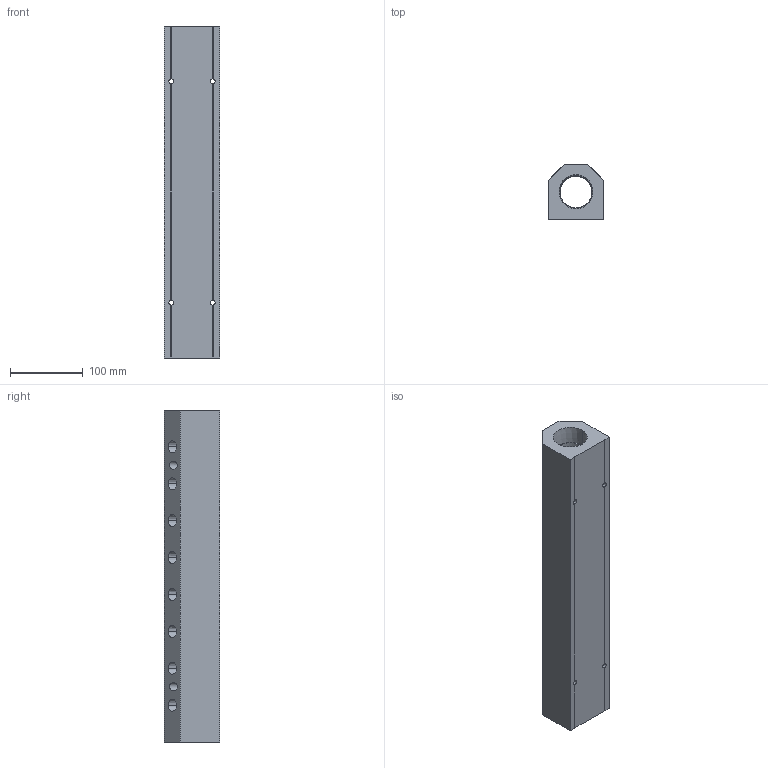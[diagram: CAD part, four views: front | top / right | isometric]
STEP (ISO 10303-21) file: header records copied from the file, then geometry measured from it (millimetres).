
FILE_DESCRIPTION (( 'STEP AP214' ), '1' );
FILE_NAME ('ALM8BCD-N6N24-457B.step', '2022-02-07T09:08:32', ( '' ), ( '' ), 'SwSTEP 2.0', 'SolidWorks 2020', '' );
FILE_SCHEMA (( 'AUTOMOTIVE_DESIGN' ));
Length unit declared in the file: millimetre
Products named in the file (1): ALM8BCD-N6N24-457B
Bounding box: 76.2 x 76.2 x 457 mm (x, y, z)
Volume: 1621996.7 mm3; surface area: 214505 mm2
Topology: 1 solids, 1 shells, 365 faces, 970 edges, 644 vertices
Faces by surface type: plane 219, bspline 76, cone 52, cylinder 18
Entity records: 21621 total; most frequent: CARTESIAN_POINT 9520, ORIENTED_EDGE 1940, DIRECTION 1418, EDGE_CURVE 970, VECTOR 670, LINE 670, VERTEX_POINT 644, EDGE_LOOP 460
